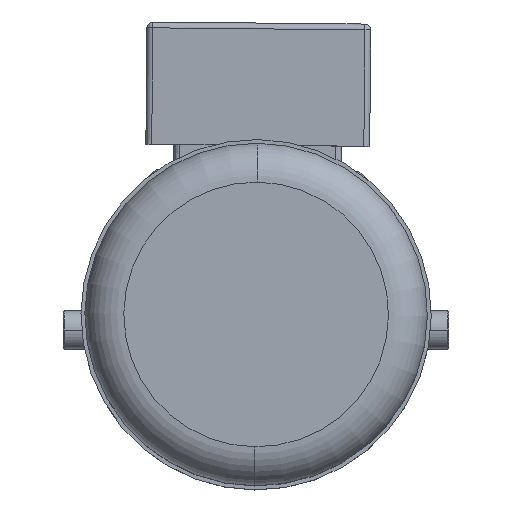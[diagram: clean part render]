
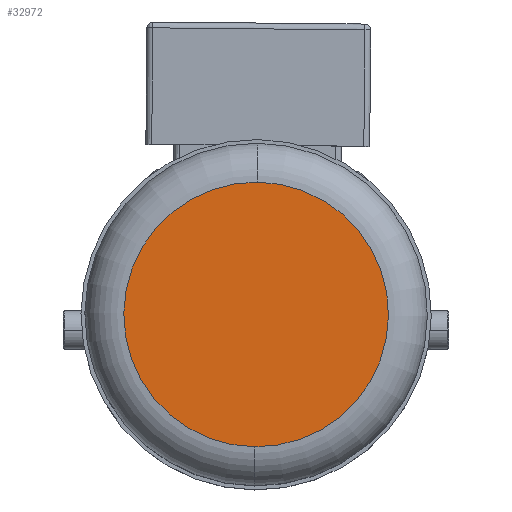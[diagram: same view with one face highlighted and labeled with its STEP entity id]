
A CAD part, top view. The second image highlights one B-rep face of the part: STEP entity #32972.
In plain terms, the highlighted planar face has unit normal (0, 0, 1) as drawn and (0, 0, -1) by its records, which use the part's own axes.
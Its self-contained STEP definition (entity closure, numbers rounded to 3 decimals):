
#3277 = DIRECTION ( 'NONE',  ( 0., 0., -1. ) ) ;
#4070 = DIRECTION ( 'NONE',  ( 0., 1., 0. ) ) ;
#4247 = EDGE_CURVE ( 'NONE', #31446, #45854, #53879, .T. ) ;
#6493 = FACE_OUTER_BOUND ( 'NONE', #98036, .T. ) ;
#21557 = CARTESIAN_POINT ( 'NONE',  ( 0., 0., -330. ) ) ;
#29061 = ORIENTED_EDGE ( 'NONE', *, *, #4247, .T. ) ;
#29765 = DIRECTION ( 'NONE',  ( 0., 1., 0. ) ) ;
#30680 = ORIENTED_EDGE ( 'NONE', *, *, #75254, .T. ) ;
#31446 = VERTEX_POINT ( 'NONE', #32745 ) ;
#32745 = CARTESIAN_POINT ( 'NONE',  ( 0., 68., -330. ) ) ;
#32972 = ADVANCED_FACE ( 'NONE', ( #6493 ), #65930, .T. ) ;
#45854 = VERTEX_POINT ( 'NONE', #73012 ) ;
#45964 = AXIS2_PLACEMENT_3D ( 'NONE', #101500, #52750, #4070 ) ;
#51938 = CARTESIAN_POINT ( 'NONE',  ( 0., 0., -330. ) ) ;
#52750 = DIRECTION ( 'NONE',  ( 0., 0., -1. ) ) ;
#53879 = CIRCLE ( 'NONE', #101104, 68. ) ;
#55222 = AXIS2_PLACEMENT_3D ( 'NONE', #21557, #78512, #29765 ) ;
#60129 = DIRECTION ( 'NONE',  ( 0., 1., 0. ) ) ;
#61044 = CIRCLE ( 'NONE', #55222, 68. ) ;
#65930 = PLANE ( 'NONE',  #45964 ) ;
#73012 = CARTESIAN_POINT ( 'NONE',  ( 0., -68., -330. ) ) ;
#75254 = EDGE_CURVE ( 'NONE', #45854, #31446, #61044, .T. ) ;
#78512 = DIRECTION ( 'NONE',  ( 0., 0., -1. ) ) ;
#98036 = EDGE_LOOP ( 'NONE', ( #29061, #30680 ) ) ;
#101104 = AXIS2_PLACEMENT_3D ( 'NONE', #51938, #3277, #60129 ) ;
#101500 = CARTESIAN_POINT ( 'NONE',  ( 0., 0., -330. ) ) ;
